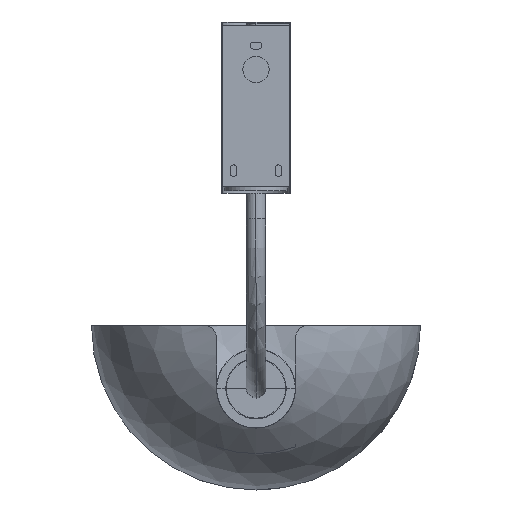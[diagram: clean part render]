
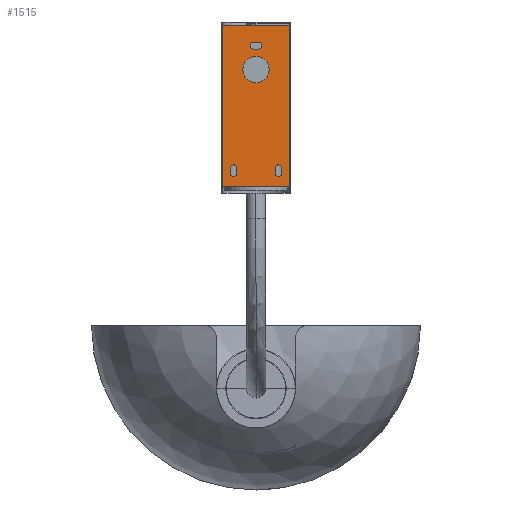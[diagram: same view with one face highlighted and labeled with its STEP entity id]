
A CAD part, top view. The second image highlights one B-rep face of the part: STEP entity #1515.
In plain terms, the highlighted planar face has unit normal (0, 0, 1).
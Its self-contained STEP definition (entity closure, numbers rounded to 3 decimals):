
#64=FACE_BOUND('',#310,.T.);
#65=FACE_BOUND('',#311,.T.);
#66=FACE_BOUND('',#312,.T.);
#67=FACE_BOUND('',#313,.T.);
#115=PLANE('',#1700);
#210=FACE_OUTER_BOUND('',#309,.T.);
#309=EDGE_LOOP('',(#1351,#1352,#1353,#1354));
#310=EDGE_LOOP('',(#1355,#1356,#1357,#1358));
#311=EDGE_LOOP('',(#1359,#1360,#1361,#1362));
#312=EDGE_LOOP('',(#1363,#1364,#1365,#1366));
#313=EDGE_LOOP('',(#1367,#1368));
#377=LINE('',#3043,#491);
#382=LINE('',#3056,#496);
#385=LINE('',#3067,#499);
#390=LINE('',#3080,#504);
#393=LINE('',#3091,#507);
#398=LINE('',#3104,#512);
#411=LINE('',#3142,#525);
#421=LINE('',#3169,#535);
#428=LINE('',#3183,#542);
#429=LINE('',#3184,#543);
#491=VECTOR('',#2027,304.8);
#496=VECTOR('',#2040,304.8);
#499=VECTOR('',#2051,304.8);
#504=VECTOR('',#2064,304.8);
#507=VECTOR('',#2075,304.8);
#512=VECTOR('',#2088,304.8);
#525=VECTOR('',#2127,304.8);
#535=VECTOR('',#2151,304.8);
#542=VECTOR('',#2168,304.8);
#543=VECTOR('',#2169,304.8);
#607=CIRCLE('',#1651,10.);
#609=CIRCLE('',#1654,10.);
#611=CIRCLE('',#1658,2.5);
#613=CIRCLE('',#1662,2.5);
#615=CIRCLE('',#1666,2.5);
#617=CIRCLE('',#1670,2.5);
#619=CIRCLE('',#1674,2.5);
#621=CIRCLE('',#1678,2.5);
#711=VERTEX_POINT('',#3028);
#712=VERTEX_POINT('',#3030);
#715=VERTEX_POINT('',#3040);
#716=VERTEX_POINT('',#3042);
#718=VERTEX_POINT('',#3048);
#720=VERTEX_POINT('',#3054);
#723=VERTEX_POINT('',#3064);
#724=VERTEX_POINT('',#3066);
#726=VERTEX_POINT('',#3072);
#728=VERTEX_POINT('',#3078);
#731=VERTEX_POINT('',#3088);
#732=VERTEX_POINT('',#3090);
#734=VERTEX_POINT('',#3096);
#736=VERTEX_POINT('',#3102);
#747=VERTEX_POINT('',#3139);
#748=VERTEX_POINT('',#3141);
#757=VERTEX_POINT('',#3166);
#758=VERTEX_POINT('',#3168);
#892=EDGE_CURVE('',#712,#711,#607,.T.);
#895=EDGE_CURVE('',#711,#712,#609,.T.);
#898=EDGE_CURVE('',#716,#715,#377,.T.);
#902=EDGE_CURVE('',#715,#718,#611,.T.);
#905=EDGE_CURVE('',#718,#720,#382,.T.);
#907=EDGE_CURVE('',#720,#716,#613,.T.);
#910=EDGE_CURVE('',#724,#723,#385,.T.);
#914=EDGE_CURVE('',#723,#726,#615,.T.);
#917=EDGE_CURVE('',#726,#728,#390,.T.);
#919=EDGE_CURVE('',#728,#724,#617,.T.);
#922=EDGE_CURVE('',#732,#731,#393,.T.);
#926=EDGE_CURVE('',#731,#734,#619,.T.);
#929=EDGE_CURVE('',#734,#736,#398,.T.);
#931=EDGE_CURVE('',#736,#732,#621,.T.);
#946=EDGE_CURVE('',#748,#747,#411,.T.);
#960=EDGE_CURVE('',#758,#757,#421,.T.);
#967=EDGE_CURVE('',#758,#747,#428,.T.);
#968=EDGE_CURVE('',#748,#757,#429,.T.);
#1351=ORIENTED_EDGE('',*,*,#967,.F.);
#1352=ORIENTED_EDGE('',*,*,#960,.T.);
#1353=ORIENTED_EDGE('',*,*,#968,.F.);
#1354=ORIENTED_EDGE('',*,*,#946,.T.);
#1355=ORIENTED_EDGE('',*,*,#931,.T.);
#1356=ORIENTED_EDGE('',*,*,#922,.T.);
#1357=ORIENTED_EDGE('',*,*,#926,.T.);
#1358=ORIENTED_EDGE('',*,*,#929,.T.);
#1359=ORIENTED_EDGE('',*,*,#919,.T.);
#1360=ORIENTED_EDGE('',*,*,#910,.T.);
#1361=ORIENTED_EDGE('',*,*,#914,.T.);
#1362=ORIENTED_EDGE('',*,*,#917,.T.);
#1363=ORIENTED_EDGE('',*,*,#907,.T.);
#1364=ORIENTED_EDGE('',*,*,#898,.T.);
#1365=ORIENTED_EDGE('',*,*,#902,.T.);
#1366=ORIENTED_EDGE('',*,*,#905,.T.);
#1367=ORIENTED_EDGE('',*,*,#895,.T.);
#1368=ORIENTED_EDGE('',*,*,#892,.T.);
#1515=ADVANCED_FACE('',(#210,#64,#65,#66,#67),#115,.T.);
#1651=AXIS2_PLACEMENT_3D('',#3031,#2014,#2015);
#1654=AXIS2_PLACEMENT_3D('',#3035,#2021,#2022);
#1658=AXIS2_PLACEMENT_3D('',#3050,#2034,#2035);
#1662=AXIS2_PLACEMENT_3D('',#3059,#2045,#2046);
#1666=AXIS2_PLACEMENT_3D('',#3074,#2058,#2059);
#1670=AXIS2_PLACEMENT_3D('',#3083,#2069,#2070);
#1674=AXIS2_PLACEMENT_3D('',#3098,#2082,#2083);
#1678=AXIS2_PLACEMENT_3D('',#3107,#2093,#2094);
#1700=AXIS2_PLACEMENT_3D('',#3182,#2166,#2167);
#2014=DIRECTION('center_axis',(0.,0.,
-1.));
#2015=DIRECTION('ref_axis',(1.,0.,0.));
#2021=DIRECTION('center_axis',(0.,0.,
-1.));
#2022=DIRECTION('ref_axis',(1.,0.,0.));
#2027=DIRECTION('',(0.,1.,0.));
#2034=DIRECTION('center_axis',(0.,0.,
-1.));
#2035=DIRECTION('ref_axis',(1.,0.,0.));
#2040=DIRECTION('',(0.,-1.,0.));
#2045=DIRECTION('center_axis',(0.,0.,
-1.));
#2046=DIRECTION('ref_axis',(1.,0.,0.));
#2051=DIRECTION('',(0.,1.,0.));
#2058=DIRECTION('center_axis',(0.,0.,
-1.));
#2059=DIRECTION('ref_axis',(1.,0.,0.));
#2064=DIRECTION('',(0.,-1.,0.));
#2069=DIRECTION('center_axis',(0.,0.,
-1.));
#2070=DIRECTION('ref_axis',(1.,0.,0.));
#2075=DIRECTION('',(1.,0.,0.));
#2082=DIRECTION('center_axis',(0.,0.,
-1.));
#2083=DIRECTION('ref_axis',(1.,0.,0.));
#2088=DIRECTION('',(-1.,0.,0.));
#2093=DIRECTION('center_axis',(0.,0.,
-1.));
#2094=DIRECTION('ref_axis',(1.,0.,0.));
#2127=DIRECTION('',(0.,1.,0.));
#2151=DIRECTION('',(0.,-1.,0.));
#2166=DIRECTION('center_axis',(0.,0.,
1.));
#2167=DIRECTION('ref_axis',(0.,-1.,0.));
#2168=DIRECTION('',(1.,0.,0.));
#2169=DIRECTION('',(-1.,0.,0.));
#3028=CARTESIAN_POINT('',(10.,28.96,28.));
#3030=CARTESIAN_POINT('',(-10.,28.96,28.));
#3031=CARTESIAN_POINT('Origin',(0.,28.96,
28.));
#3035=CARTESIAN_POINT('Origin',(0.,28.96,
28.));
#3040=CARTESIAN_POINT('',(14.5,-46.001,28.));
#3042=CARTESIAN_POINT('',(14.5,-50.001,28.));
#3043=CARTESIAN_POINT('',(14.5,-50.001,28.));
#3048=CARTESIAN_POINT('',(19.5,-46.001,28.));
#3050=CARTESIAN_POINT('Origin',(17.,-46.001,28.));
#3054=CARTESIAN_POINT('',(19.5,-50.001,28.));
#3056=CARTESIAN_POINT('',(19.5,-46.001,28.));
#3059=CARTESIAN_POINT('Origin',(17.,-50.001,28.));
#3064=CARTESIAN_POINT('',(-19.5,-46.001,28.));
#3066=CARTESIAN_POINT('',(-19.5,-50.001,28.));
#3067=CARTESIAN_POINT('',(-19.5,-50.001,28.));
#3072=CARTESIAN_POINT('',(-14.5,-46.001,28.));
#3074=CARTESIAN_POINT('Origin',(-17.,-46.001,28.));
#3078=CARTESIAN_POINT('',(-14.5,-50.001,28.));
#3080=CARTESIAN_POINT('',(-14.5,-46.001,28.));
#3083=CARTESIAN_POINT('Origin',(-17.,-50.001,28.));
#3088=CARTESIAN_POINT('',(2.,49.499,28.));
#3090=CARTESIAN_POINT('',(-2.,49.499,28.));
#3091=CARTESIAN_POINT('',(-2.,49.499,28.));
#3096=CARTESIAN_POINT('',(2.,44.499,28.));
#3098=CARTESIAN_POINT('Origin',(2.,46.999,28.));
#3102=CARTESIAN_POINT('',(-2.,44.499,28.));
#3104=CARTESIAN_POINT('',(2.,44.499,28.));
#3107=CARTESIAN_POINT('Origin',(-2.,46.999,28.));
#3139=CARTESIAN_POINT('',(25.5,61.999,28.));
#3141=CARTESIAN_POINT('',(25.5,-60.001,28.));
#3142=CARTESIAN_POINT('',(25.5,-60.001,28.));
#3166=CARTESIAN_POINT('',(-25.5,-60.001,28.));
#3168=CARTESIAN_POINT('',(-25.5,61.999,28.));
#3169=CARTESIAN_POINT('',(-25.5,61.999,28.));
#3182=CARTESIAN_POINT('Origin',(-25.5,61.999,28.));
#3183=CARTESIAN_POINT('',(-25.5,61.999,28.));
#3184=CARTESIAN_POINT('',(25.5,-60.001,28.));
